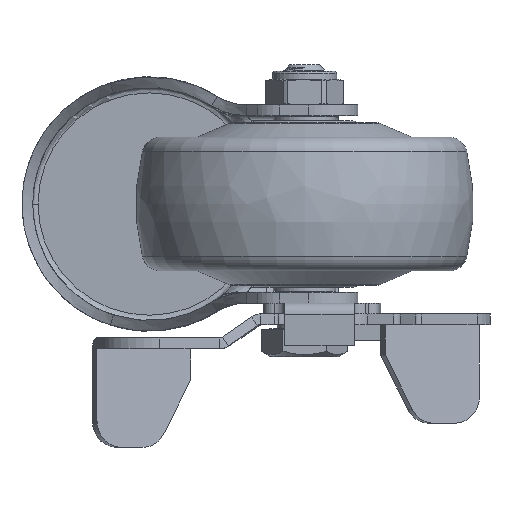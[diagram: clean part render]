
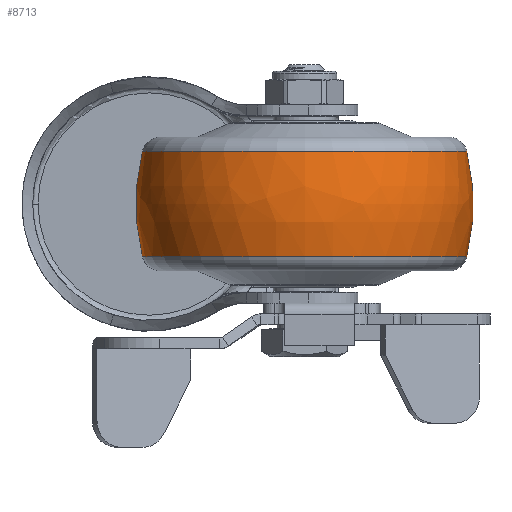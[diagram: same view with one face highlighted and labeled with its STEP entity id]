
A CAD part, front view. The second image highlights one B-rep face of the part: STEP entity #8713.
In plain terms, the highlighted free-form (B-spline) face has degree [3, 3] with [7, 4] control points.
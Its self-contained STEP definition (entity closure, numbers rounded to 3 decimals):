
#8199=CARTESIAN_POINT('',(0.,-8.5,0.));
#8200=DIRECTION('',(0.,0.,1.));
#8201=DIRECTION('',(0.247,0.969,0.));
#8202=AXIS2_PLACEMENT_3D('',#8199,#8200,#8201);
#8204=CARTESIAN_POINT('',(0.,8.5,0.));
#8205=DIRECTION('',(0.,0.,-1.));
#8206=DIRECTION('',(0.247,-0.969,0.));
#8207=AXIS2_PLACEMENT_3D('',#8204,#8205,#8206);
#8209=CARTESIAN_POINT('',(9.863,0.,0.));
#8210=DIRECTION('',(-1.,0.,0.));
#8211=DIRECTION('',(0.,1.,0.));
#8212=AXIS2_PLACEMENT_3D('',#8209,#8210,#8211);
#8234=CARTESIAN_POINT('',(-9.863,0.,0.));
#8235=DIRECTION('',(-1.,0.,0.));
#8236=DIRECTION('',(0.,1.,0.));
#8237=AXIS2_PLACEMENT_3D('',#8234,#8235,#8236);
#8364=CARTESIAN_POINT('',(9.863,30.265,0.));
#8366=VERTEX_POINT('',#8364);
#8367=CARTESIAN_POINT('',(-9.863,30.265,0.));
#8368=VERTEX_POINT('',#8367);
#8404=CARTESIAN_POINT('',(9.863,-30.265,0.));
#8406=VERTEX_POINT('',#8404);
#8407=CARTESIAN_POINT('',(-9.863,-30.265,0.));
#8408=VERTEX_POINT('',#8407);
#8675=CARTESIAN_POINT('',(-10.249,-30.105,
1.894));
#8676=CARTESIAN_POINT('',(-3.494,-31.892,
2.006));
#8677=CARTESIAN_POINT('',(3.494,-31.892,2.006));
#8678=CARTESIAN_POINT('',(10.249,-30.105,1.894));
#8679=CARTESIAN_POINT('',(-10.249,-31.271,
-16.633));
#8680=CARTESIAN_POINT('',(-3.494,-33.127,
-17.62));
#8681=CARTESIAN_POINT('',(3.494,-33.127,
-17.62));
#8682=CARTESIAN_POINT('',(10.249,-31.271,
-16.633));
#8683=CARTESIAN_POINT('',(-10.249,-18.563,
-30.165));
#8684=CARTESIAN_POINT('',(-3.494,-19.665,
-31.955));
#8685=CARTESIAN_POINT('',(3.494,-19.665,
-31.955));
#8686=CARTESIAN_POINT('',(10.249,-18.563,
-30.165));
#8687=CARTESIAN_POINT('',(-10.249,0.,-30.165));
#8688=CARTESIAN_POINT('',(-3.494,0.,-31.955));
#8689=CARTESIAN_POINT('',(3.494,0.,-31.955));
#8690=CARTESIAN_POINT('',(10.249,0.,-30.165));
#8691=CARTESIAN_POINT('',(-10.249,18.563,
-30.165));
#8692=CARTESIAN_POINT('',(-3.494,19.665,
-31.955));
#8693=CARTESIAN_POINT('',(3.494,19.665,-31.955));
#8694=CARTESIAN_POINT('',(10.249,18.563,-30.165));
#8695=CARTESIAN_POINT('',(-10.249,31.271,
-16.633));
#8696=CARTESIAN_POINT('',(-3.494,33.127,
-17.62));
#8697=CARTESIAN_POINT('',(3.494,33.127,-17.62));
#8698=CARTESIAN_POINT('',(10.249,31.271,-16.633));
#8699=CARTESIAN_POINT('',(-10.249,30.105,1.894));
#8700=CARTESIAN_POINT('',(-3.494,31.892,2.006));
#8701=CARTESIAN_POINT('',(3.494,31.892,2.006));
#8702=CARTESIAN_POINT('',(10.249,30.105,1.894));
#8703=(BOUNDED_SURFACE()B_SPLINE_SURFACE(3,3,((#8675,#8676,#8677,#8678),(#8679,
#8680,#8681,#8682),(#8683,#8684,#8685,#8686),(#8687,#8688,#8689,#8690),(#8691,
#8692,#8693,#8694),(#8695,#8696,#8697,#8698),(#8699,#8700,#8701,#8702)),
.UNSPECIFIED.,.F.,.F.,.F.)B_SPLINE_SURFACE_WITH_KNOTS((4,3,4),(4,4),(0.,1.,
2.),(0.,1.),.UNSPECIFIED.)GEOMETRIC_REPRESENTATION_ITEM()RATIONAL_B_SPLINE_SURFACE(((1.207,1.181,1.181,1.207),(
0.953,0.932,0.932,0.953),(
0.953,0.932,0.932,0.953),(
1.207,1.181,1.181,1.207),(
0.953,0.932,0.932,0.953),(
0.953,0.932,0.932,0.953),(
1.207,1.181,1.181,1.207)))REPRESENTATION_ITEM('')SURFACE());
#8705=ORIENTED_EDGE('',*,*,#8704,.T.);
#8707=ORIENTED_EDGE('',*,*,#8706,.T.);
#8709=ORIENTED_EDGE('',*,*,#8708,.F.);
#8710=ORIENTED_EDGE('',*,*,#8668,.F.);
#8711=EDGE_LOOP('',(#8705,#8707,#8709,#8710));
#8712=FACE_OUTER_BOUND('',#8711,.F.);
#8203=CIRCLE('',#8202,40.);
#8208=CIRCLE('',#8207,40.);
#8213=CIRCLE('',#8212,30.265);
#8238=CIRCLE('',#8237,30.265);
#8668=EDGE_CURVE('',#8366,#8406,#8213,.T.);
#8704=EDGE_CURVE('',#8366,#8368,#8203,.T.);
#8706=EDGE_CURVE('',#8368,#8408,#8238,.T.);
#8708=EDGE_CURVE('',#8406,#8408,#8208,.T.);
#8713=ADVANCED_FACE('',(#8712),#8703,.T.);
